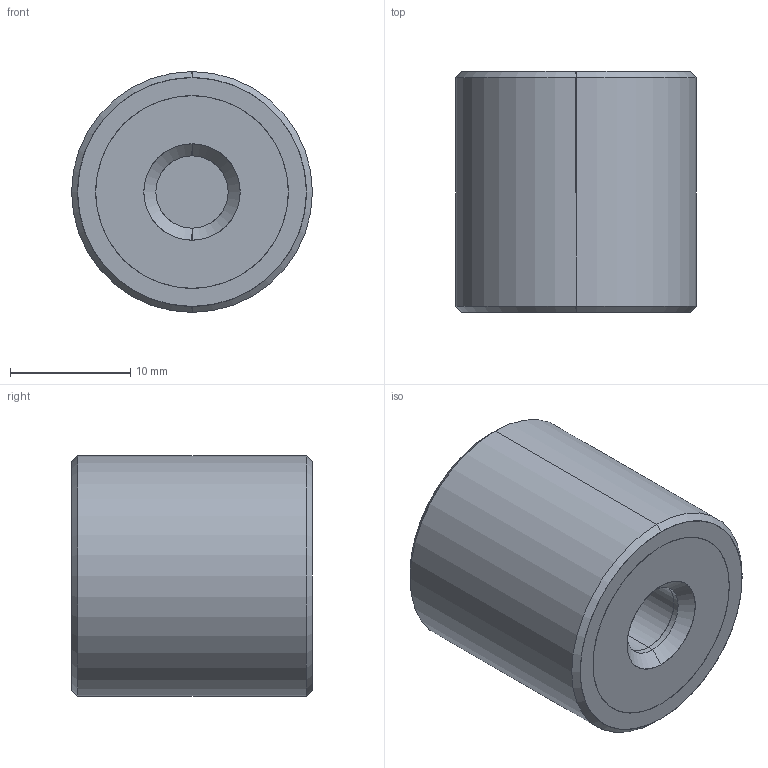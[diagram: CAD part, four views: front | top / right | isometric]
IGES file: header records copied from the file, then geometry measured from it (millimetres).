
Start section: SolidWorks IGES file using analytic representation for surfaces
Global section: file name: E:\WIXROYD 20180701\61080_v2\61080_v2_20180409_IGES\61080.W0201.igs; native system: SolidWorks 2017; preprocessor: SolidWorks 2017; author: liam_; date: 180716.214232; units: millimetre
Bounding box: 20 x 20 x 20 mm (x, y, z)
Surface area: 3047 mm2 (no closed solid volume)
Topology: 0 solids, 0 shells, 36 faces, 680 edges, 680 vertices
Faces by surface type: revolution 26, bspline 10
